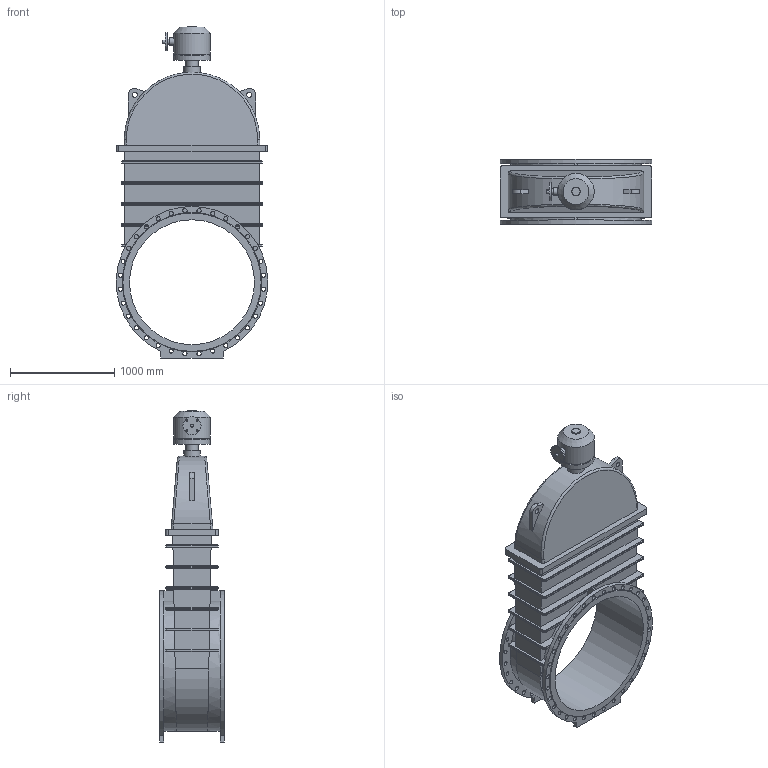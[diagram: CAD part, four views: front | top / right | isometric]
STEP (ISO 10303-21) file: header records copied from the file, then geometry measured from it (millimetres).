
FILE_DESCRIPTION(('STEP AP203'), '1');
FILE_NAME('Çàäâèæêà 47GV.Z DN1200 PN10 + ðåäóêòîð ñ âõîäíûì ôëàíöåì', '', ('UNSPECIFIED'), ('UNSPECIFIED'), 'ASCON STEP Converter 1.6', 'ASCON Math Kernel', '');
FILE_SCHEMA(('CONFIG_CONTROL_DESIGN'));
Length unit declared in the file: millimetre
Bounding box: 1453.67 x 630 x 3187.5 mm (x, y, z)
Volume: 822267243.3 mm3; surface area: 14617671 mm2
Topology: 1 solids, 1 shells, 367 faces, 920 edges, 579 vertices
Faces by surface type: cylinder 182, plane 132, bspline 50, cone 3
Full cylindrical faces by diameter (mm): 18 x4, 40 x64, 50 x3, 70 x1, 80 x1, 120 x1, 160 x1, 175 x1, 330 x1, 350 x2, 1200 x1
Entity records: 18928 total; most frequent: CARTESIAN_POINT 7605, ORIENTED_EDGE 1674, DIRECTION 1598, EDGE_CURVE 837, EDGE_LOOP 616, AXIS2_PLACEMENT_3D 605, VERTEX_POINT 579, FACE_BOUND 450
